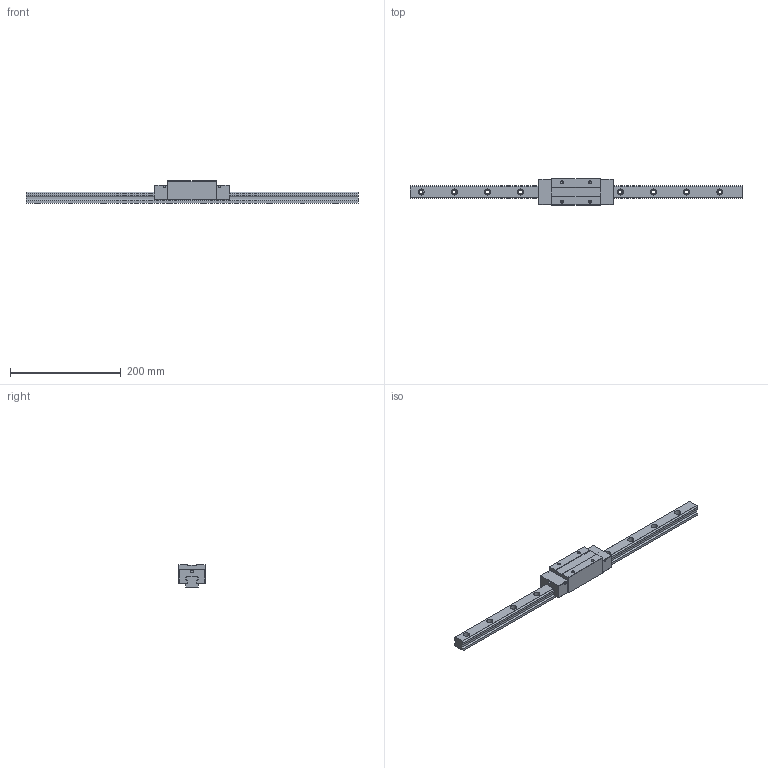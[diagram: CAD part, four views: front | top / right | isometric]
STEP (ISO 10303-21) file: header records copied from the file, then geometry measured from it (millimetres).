
FILE_DESCRIPTION (( 'STEP AP203' ), '1' );
FILE_NAME ('TRH25VE-DZ.STEP', '2024-07-10T08:02:44', ( '' ), ( '' ), 'SwSTEP 2.0', 'SolidWorks 2022', '' );
FILE_SCHEMA (( 'CONFIG_CONTROL_DESIGN' ));
Length unit declared in the file: millimetre
Products named in the file (1): TRH25VE-DZ
Bounding box: 600 x 48 x 40 mm (x, y, z)
Volume: 395849.1 mm3; surface area: 88134.7 mm2
Topology: 2 solids, 2 shells, 200 faces, 520 edges, 336 vertices
Faces by surface type: cylinder 96, plane 88, cone 16
Entity records: 6223 total; most frequent: DIRECTION 1114, CARTESIAN_POINT 1049, ORIENTED_EDGE 1024, EDGE_CURVE 512, AXIS2_PLACEMENT_3D 401, VERTEX_POINT 336, VECTOR 312, LINE 312
